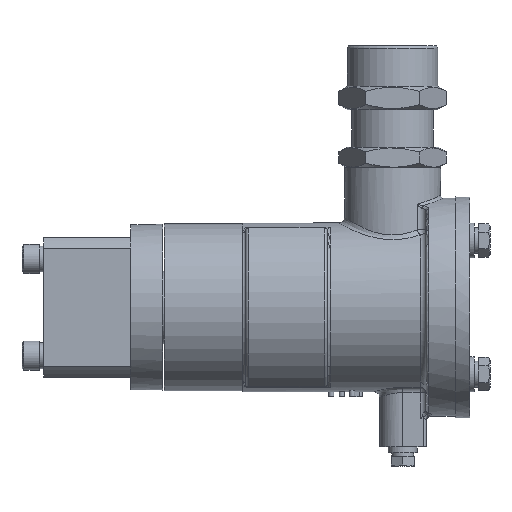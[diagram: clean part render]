
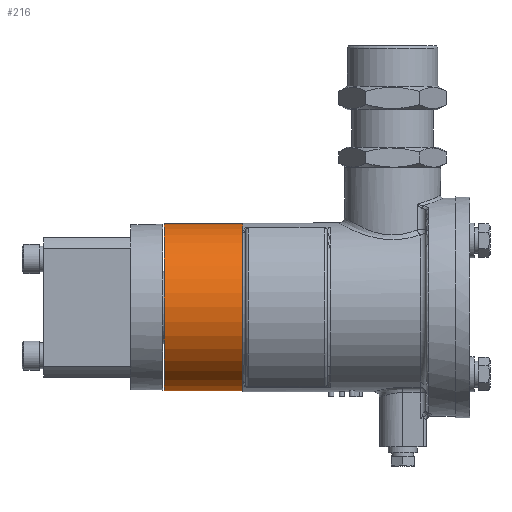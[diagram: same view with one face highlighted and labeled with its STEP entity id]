
A CAD part, front view. The second image highlights one B-rep face of the part: STEP entity #216.
In plain terms, the highlighted cylindrical face has radius 28.75 mm (diameter 57.5 mm), a full revolution.
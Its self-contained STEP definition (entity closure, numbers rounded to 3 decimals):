
#216=ADVANCED_FACE('',(#2501,#2503),#2505,.T.);
#2501=FACE_OUTER_BOUND('',#2502,.T.);
#2502=EDGE_LOOP('',(#11250));
#2503=FACE_OUTER_BOUND('',#2504,.T.);
#2504=EDGE_LOOP('',(#11251));
#2505=CYLINDRICAL_SURFACE('',#2506,28.75);
#2506=AXIS2_PLACEMENT_3D('',#2507,#2508,#2509);
#2507=CARTESIAN_POINT('',(55.5,0.,0.));
#2508=DIRECTION('',(-1.,0.,0.));
#2509=DIRECTION('',(0.,0.,1.));
#11250=ORIENTED_EDGE('',*,*,#17627,.T.);
#11251=ORIENTED_EDGE('',*,*,#17557,.F.);
#17557=EDGE_CURVE('',#20501,#20501,#20502,.T.);
#17627=EDGE_CURVE('',#20619,#20619,#20620,.T.);
#20501=VERTEX_POINT('',#27140);
#20502=CIRCLE('',#27141,28.75);
#20619=VERTEX_POINT('',#27412);
#20620=CIRCLE('',#27413,28.75);
#27140=CARTESIAN_POINT('',(28.5,0.,28.75));
#27141=AXIS2_PLACEMENT_3D('',#27142,#27143,#27144);
#27142=CARTESIAN_POINT('',(28.5,0.,0.));
#27143=DIRECTION('',(-1.,0.,0.));
#27144=DIRECTION('',(0.,0.,1.));
#27412=CARTESIAN_POINT('',(55.5,0.,28.75));
#27413=AXIS2_PLACEMENT_3D('',#27414,#27415,#27416);
#27414=CARTESIAN_POINT('',(55.5,0.,0.));
#27415=DIRECTION('',(-1.,0.,0.));
#27416=DIRECTION('',(0.,0.,1.));
